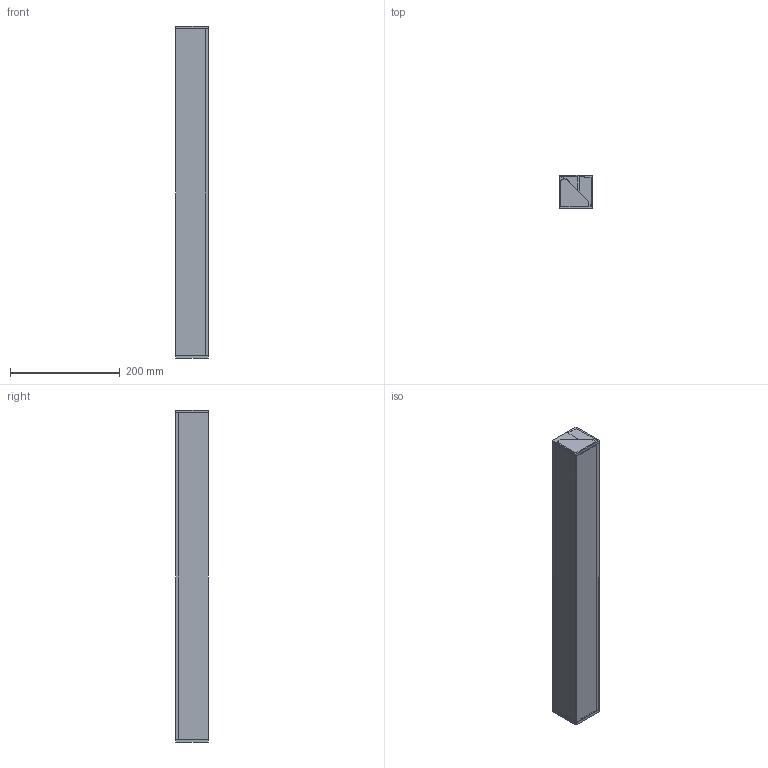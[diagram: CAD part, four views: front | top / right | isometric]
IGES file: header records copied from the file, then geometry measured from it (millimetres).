
Start section: SolidWorks IGES file using analytic representation for surfaces
Global section: file name: \\srvficheros\grupos\DISENYO\DESARROLLO DE PRODUCTO\_3D_WEB\TAVI-A385060\TAVI-A385060.IGS; native system: SolidWorks 2025; preprocessor: SolidWorks 2025; author: d.pons; date: 260115.102559; units: millimetre
Bounding box: 60 x 60 x 605 mm (x, y, z)
Surface area: 463050 mm2 (no closed solid volume)
Topology: 0 solids, 0 shells, 258 faces, 2102 edges, 2102 vertices
Faces by surface type: bspline 210, revolution 48
